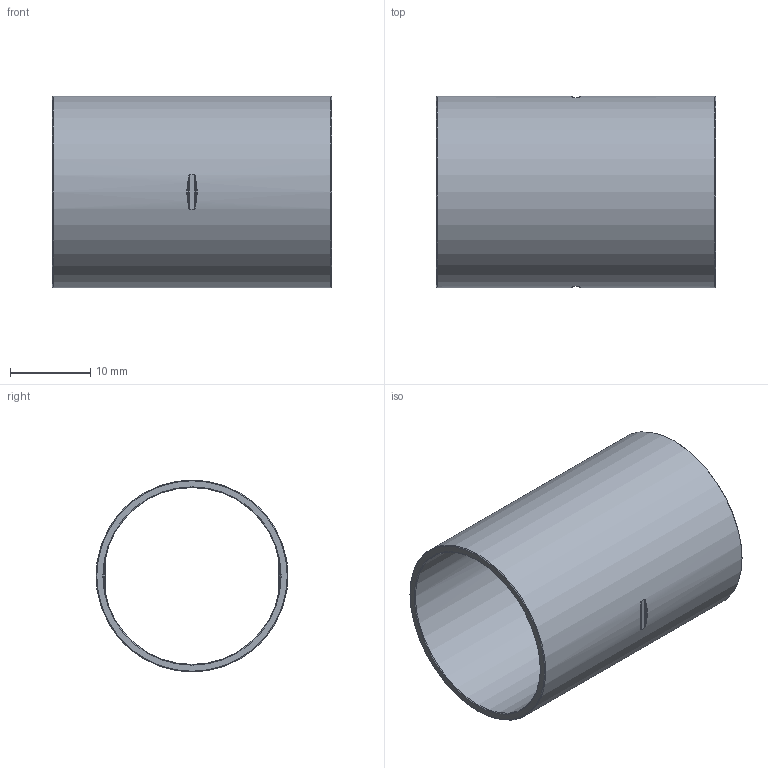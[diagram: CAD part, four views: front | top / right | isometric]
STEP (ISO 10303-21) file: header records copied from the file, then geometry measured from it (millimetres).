
FILE_DESCRIPTION((''),'2;1');
FILE_NAME('G:\SANHA-TERNAT\Technik\Management\Bouwmaten\z-maattekeningen 3D\imate 5000s\15270..._\1527022.stp','2009-10-19T09:09:25',('vdvijverd'),(''),'Autodesk Inventor 2009','Autodesk Inventor 2009','');
FILE_SCHEMA(('AUTOMOTIVE_DESIGN { 1 0 10303 214 1 1 1 1 }'));
Length unit declared in the file: millimetre
Products named in the file (1): 1527022
Bounding box: 34.75 x 23.9 x 23.9 mm (x, y, z)
Volume: 2379.2 mm3; surface area: 5132.4 mm2
Topology: 1 solids, 1 shells, 36 faces, 96 edges, 64 vertices
Faces by surface type: bspline 14, cylinder 10, plane 8, cone 4
Full cylindrical faces by diameter (mm): 22 x1, 23.9 x1
Entity records: 1390 total; most frequent: CARTESIAN_POINT 579, ORIENTED_EDGE 176, DIRECTION 126, EDGE_CURVE 88, VERTEX_POINT 64, EDGE_LOOP 48, AXIS2_PLACEMENT_3D 47, FACE_OUTER_BOUND 36
